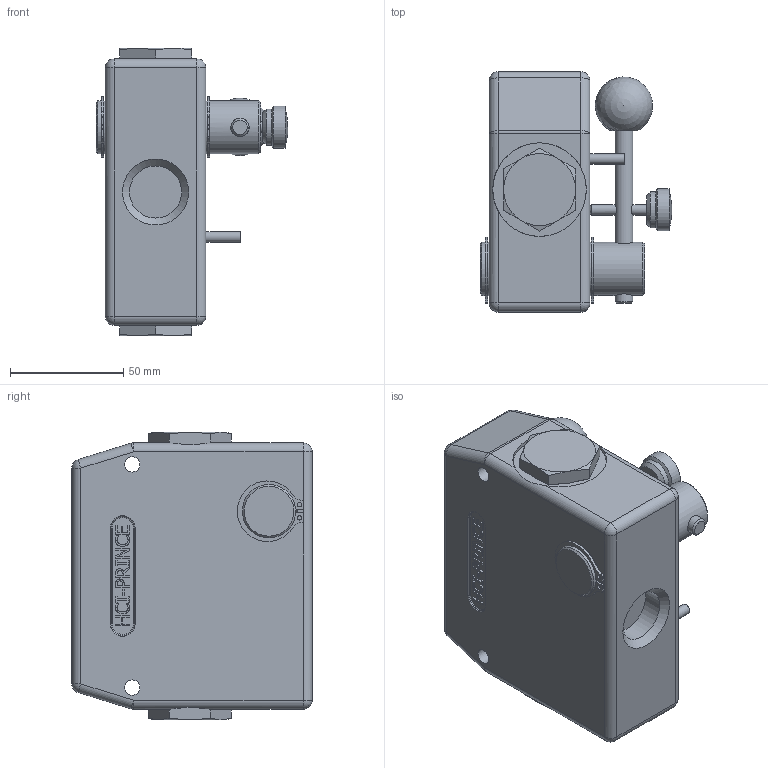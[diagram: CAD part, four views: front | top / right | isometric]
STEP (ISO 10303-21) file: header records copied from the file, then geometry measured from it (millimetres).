
FILE_DESCRIPTION((''),'2;1');
FILE_NAME('C:\Vault\Workspace\z_ShellModels\Misc_RD_RV\RD-175-xx-Shell.stp','2012-03-19T10:45:03',('PetersW'),(''),'Autodesk Inventor 2012','Autodesk Inventor 2012','');
FILE_SCHEMA(('AUTOMOTIVE_DESIGN { 1 0 10303 214 1 1 1 1 }'));
Length unit declared in the file: inch
Products named in the file (1): Part3
Bounding box: 84.52 x 106.05 x 126.9 mm (x, y, z)
Volume: 539402.4 mm3; surface area: 64983.7 mm2
Topology: 3 solids, 10 shells, 897 faces, 2287 edges, 1480 vertices
Faces by surface type: plane 441, bspline 232, cylinder 122, cone 52, torus 36, sphere 14
Full cylindrical faces by diameter (mm): 1.981 x4, 2.286 x5, 2.362 x1, 4.572 x4, 4.724 x2, 4.978 x2, 6.401 x1, 6.731 x2, 7.899 x1, 8.103 x1, 15.875 x1, 18.542 x1, 18.847 x2, 22.225 x2, 23.012 x3, 23.452 x2, 23.52 x4, 23.952 x2, 41.275 x2
Entity records: 28539 total; most frequent: CARTESIAN_POINT 7881, ORIENTED_EDGE 4354, DIRECTION 3324, EDGE_CURVE 2177, VERTEX_POINT 1442, VECTOR 1316, LINE 1316, EDGE_LOOP 1063
